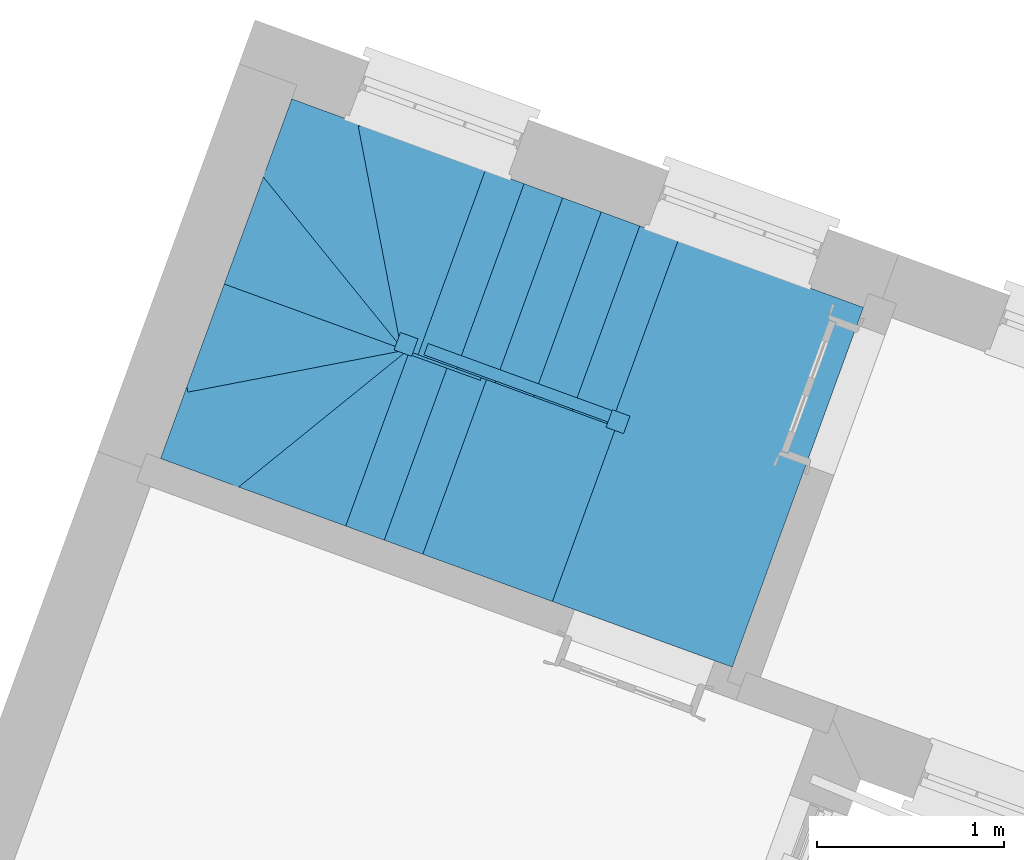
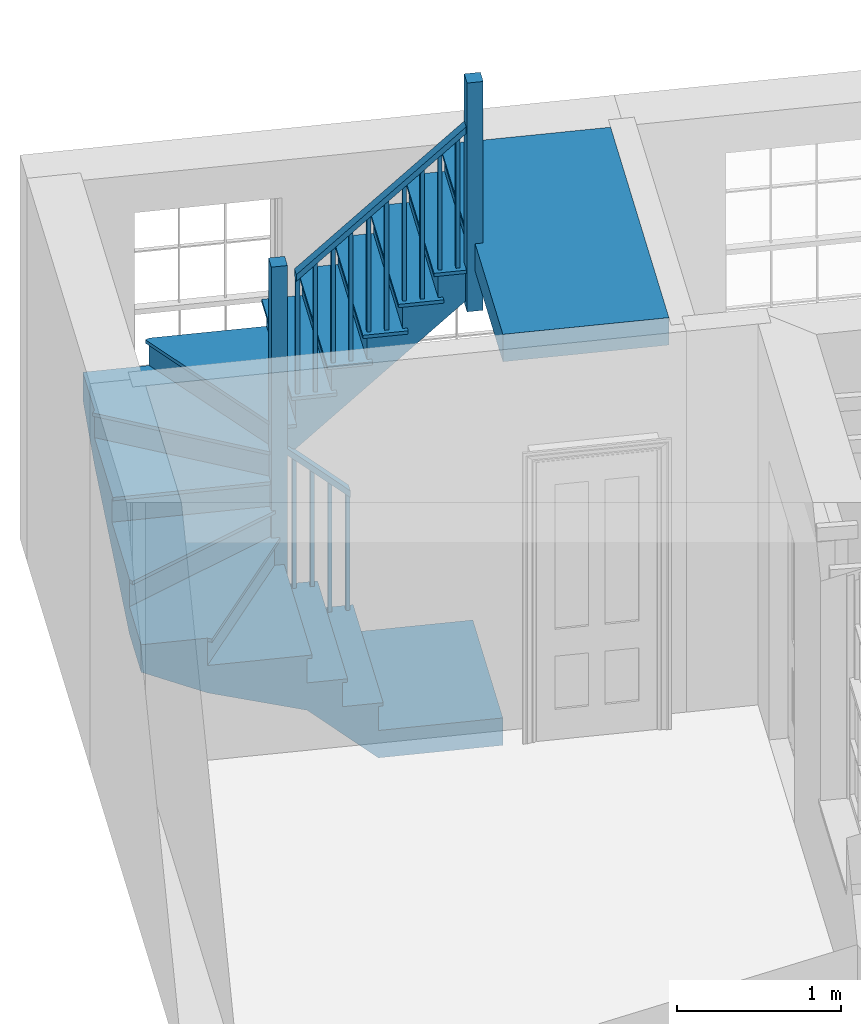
# One storey, part 7 of 7: 1 stair.
"""IFC4 building model written with IfcOpenShell, lengths in metres."""

import ifcopenshell
import ifcopenshell.guid

model = None  # the IFC model being written
_history = None  # IfcOwnerHistory: only IFC2X3 demands one
_inside = {}  # id of a spatial element -> (the spatial element, [elements in it])
_under = {}  # id of a project, library or spatial element -> (it, [spatial elements below it])
_declared = {}  # id of a project -> (the project, [libraries it declares])
_typed = {}  # id of a type object -> (the type object, [elements of that type])
_made_of = {}  # id of a material, layer set ... -> (it, [elements and type objects made of it])


def new_model(schema):
    """Start an empty IFC model of exactly this schema.

    Asked for "IFC4X3", IfcOpenShell would pick the latest addendum, in which some entities
    have other attributes; the version numbers below select the first issue.
    IFC2X3 requires an IfcOwnerHistory on every rooted entity: one is made here for all.
    """
    global model, _history
    if schema == "IFC4X3":
        model = ifcopenshell.file(schema_version=(4, 3, 0, 0))
    else:
        model = ifcopenshell.file(schema=schema)
    _inside.clear()
    _under.clear()
    _declared.clear()
    _typed.clear()
    _made_of.clear()
    _history = None
    if model.schema == "IFC2X3":
        org = make("IfcOrganization", Name="unknown")
        user = make(
            "IfcPersonAndOrganization",
            ThePerson=make("IfcPerson", FamilyName="unknown"),
            TheOrganization=org,
        )
        app = make(
            "IfcApplication",
            ApplicationDeveloper=org,
            Version="unknown",
            ApplicationFullName="unknown",
            ApplicationIdentifier="unknown",
        )
        _history = make(
            "IfcOwnerHistory",
            OwningUser=user,
            OwningApplication=app,
            ChangeAction="ADDED",
            CreationDate=0,
        )
    return model


def make(cls, **values):
    """One entity of the class cls with the attributes given. An attribute that is None is left unset."""
    return model.create_entity(
        cls, **{name: value for name, value in values.items() if value is not None}
    )


def rooted(cls, **values):
    """An entity with a GlobalId (a new one), such as an element, a storey or a relation."""
    return make(cls, GlobalId=ifcopenshell.guid.new(), OwnerHistory=_history, **values)


def si_unit(unit_type, name, prefix=None):
    """IfcSIUnit, for example si_unit("LENGTHUNIT", "METRE", prefix="MILLI")."""
    return make("IfcSIUnit", UnitType=unit_type, Prefix=prefix, Name=name)


def assignment(units):
    """IfcUnitAssignment: the units of a project."""
    return None if units is None else make("IfcUnitAssignment", Units=units)


def point(xyz):
    """IfcCartesianPoint."""
    return None if xyz is None else make("IfcCartesianPoint", Coordinates=xyz)


def direction(xyz):
    """IfcDirection."""
    return None if xyz is None else make("IfcDirection", DirectionRatios=xyz)


def frame(location, z_axis=None, x_axis=None):
    """IfcAxis2Placement3D, a coordinate frame: its origin and axes. An axis left out is left unset."""
    return make(
        "IfcAxis2Placement3D",
        Location=point(location),
        Axis=direction(z_axis),
        RefDirection=direction(x_axis),
    )


def origin():
    """The frame at (0, 0, 0) with its axes left unset."""
    return frame((0.0, 0.0, 0.0))


def origin_with_axes():
    """The frame at (0, 0, 0) with the z axis (0, 0, 1) and the x axis (1, 0, 0) written out."""
    return frame((0.0, 0.0, 0.0), z_axis=(0.0, 0.0, 1.0), x_axis=(1.0, 0.0, 0.0))


def place(relative_to, where):
    """IfcLocalPlacement: puts the frame where relative to a parent placement (None: the world)."""
    return make(
        "IfcLocalPlacement", PlacementRelTo=relative_to, RelativePlacement=where
    )


def context(
    kind, dimensions, precision=None, world=None, true_north=None, identifier=None
):
    """IfcGeometricRepresentationContext, for example the 3D "Model" context."""
    return make(
        "IfcGeometricRepresentationContext",
        ContextIdentifier=identifier,
        ContextType=kind,
        CoordinateSpaceDimension=dimensions,
        Precision=precision,
        WorldCoordinateSystem=world,
        TrueNorth=true_north,
    )


def subcontext(parent, identifier, kind, view, scale=None):
    """IfcGeometricRepresentationSubContext, for example "Body" below "Model"."""
    return make(
        "IfcGeometricRepresentationSubContext",
        ContextIdentifier=identifier,
        ContextType=kind,
        ParentContext=parent,
        TargetScale=scale,
        TargetView=view,
    )


def project(units=None, contexts=None):
    """IfcProject with its units and contexts."""
    return rooted(
        "IfcProject",
        Name="project",
        RepresentationContexts=contexts,
        UnitsInContext=assignment(units),
    )


def spatial(cls, under=None, at=None, **own):
    """A site, building, storey or space (cls), placed at a placement, below another one or the project."""
    s = rooted(cls, ObjectPlacement=at, **own)
    if under is not None:
        _under.setdefault(under.id(), (under, []))[1].append(s)
    return s


def faces_of(points, faces, orient=None, outer=None):
    """IfcFace entities. A face is a list of loops; a loop is a list of indices into points, from 0.

    orient and outer hold one flag for each loop. By default every Orientation is true, the
    first loop of a face is its IfcFaceOuterBound and the others are IfcFaceBound.
    """
    made = []
    for i, loops in enumerate(faces):
        bounds = []
        for j, loop in enumerate(loops):
            is_outer = j == 0 if outer is None else outer[i][j]
            bounds.append(
                make(
                    "IfcFaceOuterBound" if is_outer else "IfcFaceBound",
                    Bound=make("IfcPolyLoop", Polygon=[points[k] for k in loop]),
                    Orientation=True if orient is None else orient[i][j],
                )
            )
        made.append(make("IfcFace", Bounds=bounds))
    return made


def faceted_brep(points, faces, orient=None, outer=None, voids=None):
    """IfcFacetedBrep: a solid bounded by flat faces; with voids (closed shells), ...WithVoids."""
    shared = [point(p) for p in points]
    hull = make("IfcClosedShell", CfsFaces=faces_of(shared, faces, orient, outer))
    if voids is None:
        return make("IfcFacetedBrep", Outer=hull)
    return make(
        "IfcFacetedBrepWithVoids",
        Outer=hull,
        Voids=[
            make(cls, CfsFaces=faces_of(shared, fs, o, b)) for cls, fs, o, b in voids
        ],
    )


def shape(context_of_items, identifier, shape_type, items):
    """IfcShapeRepresentation: the items that make up one representation, for example the "Body"."""
    return make(
        "IfcShapeRepresentation",
        ContextOfItems=context_of_items,
        RepresentationIdentifier=identifier,
        RepresentationType=shape_type,
        Items=items,
    )


def made_of(thing, what):
    """Note that an element or type object is made of a material, layer set ...; save() writes the relation."""
    if what is not None:
        _made_of.setdefault(what.id(), (what, []))[1].append(thing)
    return thing


def element(
    cls,
    number,
    at=None,
    inside=None,
    cuts=None,
    type_object=None,
    material=None,
    context=None,
    identifier="Body",
    shape_type=None,
    held_by="IfcProductDefinitionShape",
    body=None,
    shapes=None,
    **own,
):
    """One element of the class cls, such as IfcWall. Its Tag is "e" and its number.

    at: its placement. inside: the storey or other place that contains it. cuts: it is an
    opening in that element (IfcRelVoidsElement). A single representation is given by context,
    identifier, shape_type and body (its items); several are given by shapes. held_by: the class
    of the entity that holds the representations. save() writes the other relations.
    """
    e = rooted(cls, Tag="e%d" % number, ObjectPlacement=at, **own)
    if body is not None:
        shapes = [shape(context, identifier, shape_type, body)]
    if shapes is not None:
        e.Representation = make(held_by, Representations=shapes)
    if inside is not None:
        _inside.setdefault(inside.id(), (inside, []))[1].append(e)
    if cuts is not None:
        rooted(
            "IfcRelVoidsElement", RelatingBuildingElement=cuts, RelatedOpeningElement=e
        )
    if type_object is not None:
        _typed.setdefault(type_object.id(), (type_object, []))[1].append(e)
    return made_of(e, material)


def aggregate(whole, parts):
    """IfcRelAggregates: a whole, such as a stair, and the parts it consists of."""
    return rooted("IfcRelAggregates", RelatingObject=whole, RelatedObjects=parts)


def save(model, path):
    """Write the relations noted so far, then the file.

    IfcRelAggregates (storeys below a building ...), IfcRelContainedInSpatialStructure (elements
    in a storey), IfcRelDefinesByType, IfcRelAssociatesMaterial and IfcRelDeclares: one each for
    every whole, place, type object, material and project.
    """
    for whole, parts in _under.values():
        aggregate(whole, parts)
    for where, things in _inside.values():
        rooted(
            "IfcRelContainedInSpatialStructure",
            RelatedElements=things,
            RelatingStructure=where,
        )
    for kind, things in _typed.values():
        rooted("IfcRelDefinesByType", RelatedObjects=things, RelatingType=kind)
    for what, things in _made_of.values():
        rooted("IfcRelAssociatesMaterial", RelatedObjects=things, RelatingMaterial=what)
    for by, libraries in _declared.values():
        rooted("IfcRelDeclares", RelatingContext=by, RelatedDefinitions=libraries)
    model.write(path)


model = new_model("IFC4")

# Units and contexts
model_context = context("Model", 3, world=origin_with_axes())
body_context = subcontext(model_context, "Body", "Model", "MODEL_VIEW")
ifc_project = project(units=[si_unit("PLANEANGLEUNIT", "RADIAN"), si_unit("MASSUNIT", "GRAM", prefix="KILO"), si_unit("FORCEUNIT", "NEWTON", prefix="KILO"), si_unit("LENGTHUNIT", "METRE"), si_unit("AREAUNIT", "SQUARE_METRE"), si_unit("VOLUMEUNIT", "CUBIC_METRE")], contexts=[model_context, model_context])

# Sites, building, storey
site_1_placement = place(None, origin_with_axes())
site_1 = spatial("IfcSite", under=ifc_project, at=site_1_placement, Name="Tamar")
site_2_placement = place(site_1_placement, origin_with_axes())
site_2 = spatial("IfcSite", under=site_1, at=site_2_placement, Name="Site plot-13", CompositionType="ELEMENT")
building_placement = place(None, origin_with_axes())
building = spatial("IfcBuilding", under=site_2, at=building_placement, Name="Building plot-13", CompositionType="ELEMENT")
storey_placement = place(None, frame((0.0, 0.0, 29.0), z_axis=(0.0, 0.0, 1.0), x_axis=(1.0, 0.0, 0.0)))
storey = spatial("IfcBuildingStorey", under=building, at=storey_placement, Name="plot-13 1", CompositionType="ELEMENT", Elevation=29.0)

# Stair
stair_placement = place(None, origin())
element("IfcStair", 1, at=stair_placement, inside=storey, Name="Stair", PredefinedType="NOTDEFINED", context=body_context, shape_type="Brep", body=[
    faceted_brep([(245.088696, 302.339506, 31.646429), (245.4404, 303.303523, 31.646429), (245.233725, 303.378924, 31.646429), (244.882021, 302.414907, 31.646429), (244.882021, 302.414907, 31.239286), (245.233725, 303.378924, 31.239286), (245.4404, 303.303523, 31.442857), (245.088696, 302.339506, 31.442857)], [[[0, 1, 2, 3]], [[4, 5, 6, 7]], [[7, 6, 1, 0]], [[1, 6, 5, 2]], [[5, 4, 3, 2]], [[3, 4, 7, 0]]]),
    faceted_brep([(245.233725, 303.378924, 31.621429), (245.205542, 303.389206, 31.621429), (245.233725, 303.378924, 31.646429), (245.468583, 303.293241, 31.621429), (245.4404, 303.303523, 31.621429), (245.4404, 303.303523, 31.646429), (245.205542, 303.389206, 31.646429), (245.468583, 303.293241, 31.646429), (244.843556, 302.397006, 31.646429), (244.882021, 302.414907, 31.646429), (244.882021, 302.414907, 31.621429), (244.843556, 302.397006, 31.621429), (245.106597, 302.301041, 31.646429), (245.088696, 302.339506, 31.646429), (245.088696, 302.339506, 31.621429), (245.106597, 302.301041, 31.621429)], [[[0, 1, 2]], [[3, 4, 5]], [[1, 6, 2]], [[7, 3, 5]], [[2, 6, 8, 9]], [[0, 2, 9, 10]], [[1, 0, 10, 11]], [[6, 1, 11, 8]], [[9, 8, 12, 13]], [[10, 9, 13, 14]], [[11, 10, 14, 15]], [[8, 11, 15, 12]], [[13, 12, 7, 5]], [[14, 13, 5, 4]], [[15, 14, 4, 3]], [[12, 15, 3, 7]]]),
    faceted_brep([(244.882021, 302.414907, 32.546429), (244.905507, 302.406339, 32.546429), (244.914075, 302.429825, 32.546429), (244.890589, 302.438393, 32.546429), (244.890589, 302.438393, 31.646429), (244.914075, 302.429825, 31.646429), (244.905507, 302.406339, 31.646429), (244.882021, 302.414907, 31.646429)], [[[0, 1, 2, 3]], [[4, 5, 6, 7]], [[7, 6, 1, 0]], [[6, 5, 2, 1]], [[5, 4, 3, 2]], [[4, 7, 0, 3]]]),
    faceted_brep([(244.985359, 302.377207, 32.648214), (245.008844, 302.368638, 32.648214), (245.017413, 302.392124, 32.648214), (244.993927, 302.400692, 32.648214), (244.993927, 302.400692, 31.646429), (245.017413, 302.392124, 31.646429), (245.008844, 302.368638, 31.646429), (244.985359, 302.377207, 31.646429)], [[[0, 1, 2, 3]], [[4, 5, 6, 7]], [[7, 6, 1, 0]], [[6, 5, 2, 1]], [[5, 4, 3, 2]], [[4, 7, 0, 3]]]),
    faceted_brep([(244.897444, 302.457182, 32.496429), (244.875166, 302.396119, 32.496429), (244.875166, 302.396119, 32.546429), (244.897444, 302.457182, 32.546429), (245.081841, 302.320717, 32.7), (245.104119, 302.38178, 32.7), (245.104119, 302.38178, 32.75), (245.081841, 302.320717, 32.75)], [[[0, 1, 2, 3]], [[4, 5, 6, 7]], [[0, 5, 4, 1]], [[3, 2, 7, 6]], [[0, 3, 6, 5]], [[2, 1, 4, 7]]]),
    faceted_brep([(244.882021, 302.414907, 31.442857), (245.233725, 303.378924, 31.442857), (245.02705, 303.454326, 31.442857), (244.675346, 302.490309, 31.442857), (244.675346, 302.490309, 31.035714), (245.02705, 303.454326, 31.035714), (245.233725, 303.378924, 31.239286), (244.882021, 302.414907, 31.239286)], [[[0, 1, 2, 3]], [[4, 5, 6, 7]], [[7, 6, 1, 0]], [[1, 6, 5, 2]], [[5, 4, 3, 2]], [[3, 4, 7, 0]]]),
    faceted_brep([(245.02705, 303.454326, 31.417857), (244.998867, 303.464608, 31.417857), (245.02705, 303.454326, 31.442857), (245.261908, 303.368642, 31.417857), (245.233725, 303.378924, 31.417857), (245.233725, 303.378924, 31.442857), (244.998867, 303.464608, 31.442857), (245.261908, 303.368642, 31.442857), (244.636881, 302.472408, 31.442857), (244.675346, 302.490309, 31.442857), (244.675346, 302.490309, 31.417857), (244.636881, 302.472408, 31.417857), (244.899922, 302.376442, 31.442857), (244.882021, 302.414907, 31.442857), (244.882021, 302.414907, 31.417857), (244.899922, 302.376442, 31.417857)], [[[0, 1, 2]], [[3, 4, 5]], [[1, 6, 2]], [[7, 3, 5]], [[2, 6, 8, 9]], [[0, 2, 9, 10]], [[1, 0, 10, 11]], [[6, 1, 11, 8]], [[9, 8, 12, 13]], [[10, 9, 13, 14]], [[11, 10, 14, 15]], [[8, 11, 15, 12]], [[13, 12, 7, 5]], [[14, 13, 5, 4]], [[15, 14, 4, 3]], [[12, 15, 3, 7]]]),
    faceted_brep([(244.675346, 302.490309, 32.342857), (244.698832, 302.481741, 32.342857), (244.7074, 302.505226, 32.342857), (244.683914, 302.513795, 32.342857), (244.683914, 302.513795, 31.442857), (244.7074, 302.505226, 31.442857), (244.698832, 302.481741, 31.442857), (244.675346, 302.490309, 31.442857)], [[[0, 1, 2, 3]], [[4, 5, 6, 7]], [[7, 6, 1, 0]], [[6, 5, 2, 1]], [[5, 4, 3, 2]], [[4, 7, 0, 3]]]),
    faceted_brep([(244.778683, 302.452608, 32.444643), (244.802169, 302.44404, 32.444643), (244.810738, 302.467526, 32.444643), (244.787252, 302.476094, 32.444643), (244.787252, 302.476094, 31.442857), (244.810738, 302.467526, 31.442857), (244.802169, 302.44404, 31.442857), (244.778683, 302.452608, 31.442857)], [[[0, 1, 2, 3]], [[4, 5, 6, 7]], [[7, 6, 1, 0]], [[6, 5, 2, 1]], [[5, 4, 3, 2]], [[4, 7, 0, 3]]]),
    faceted_brep([(244.690769, 302.532583, 32.292857), (244.668491, 302.47152, 32.292857), (244.668491, 302.47152, 32.342857), (244.690769, 302.532583, 32.342857), (244.875166, 302.396119, 32.496429), (244.897444, 302.457182, 32.496429), (244.897444, 302.457182, 32.546429), (244.875166, 302.396119, 32.546429)], [[[0, 1, 2, 3]], [[4, 5, 6, 7]], [[0, 5, 4, 1]], [[3, 2, 7, 6]], [[0, 3, 6, 5]], [[2, 1, 4, 7]]]),
    faceted_brep([(244.675346, 302.490309, 31.239286), (245.02705, 303.454326, 31.239286), (244.820375, 303.529727, 31.239286), (244.468671, 302.565711, 31.239286), (244.468671, 302.565711, 30.832143), (244.820375, 303.529727, 30.832143), (245.02705, 303.454326, 31.035714), (244.675346, 302.490309, 31.035714)], [[[0, 1, 2, 3]], [[4, 5, 6, 7]], [[7, 6, 1, 0]], [[1, 6, 5, 2]], [[5, 4, 3, 2]], [[3, 4, 7, 0]]]),
    faceted_brep([(244.792192, 303.540009, 31.214286), (244.792192, 303.540009, 31.239286), (244.820375, 303.529727, 31.214286), (245.055233, 303.444044, 31.239286), (245.055233, 303.444044, 31.214286), (245.02705, 303.454326, 31.214286), (244.820375, 303.529727, 31.239286), (245.02705, 303.454326, 31.239286), (244.430206, 302.54781, 31.239286), (244.468671, 302.565711, 31.239286), (244.468671, 302.565711, 31.214286), (244.430206, 302.54781, 31.214286), (244.693247, 302.451844, 31.239286), (244.675346, 302.490309, 31.239286), (244.675346, 302.490309, 31.214286), (244.693247, 302.451844, 31.214286)], [[[0, 1, 2]], [[3, 4, 5]], [[2, 1, 6]], [[3, 5, 7]], [[6, 1, 8, 9]], [[2, 6, 9, 10]], [[0, 2, 10, 11]], [[1, 0, 11, 8]], [[9, 8, 12, 13]], [[10, 9, 13, 14]], [[11, 10, 14, 15]], [[8, 11, 15, 12]], [[13, 12, 3, 7]], [[14, 13, 7, 5]], [[15, 14, 5, 4]], [[12, 15, 4, 3]]]),
    faceted_brep([(244.468671, 302.565711, 32.139286), (244.492157, 302.557142, 32.139286), (244.500725, 302.580628, 32.139286), (244.477239, 302.589196, 32.139286), (244.477239, 302.589196, 31.239286), (244.500725, 302.580628, 31.239286), (244.492157, 302.557142, 31.239286), (244.468671, 302.565711, 31.239286)], [[[0, 1, 2, 3]], [[4, 5, 6, 7]], [[7, 6, 1, 0]], [[6, 5, 2, 1]], [[5, 4, 3, 2]], [[4, 7, 0, 3]]]),
    faceted_brep([(244.572008, 302.52801, 32.241071), (244.595494, 302.519441, 32.241071), (244.604062, 302.542927, 32.241071), (244.580577, 302.551496, 32.241071), (244.580577, 302.551496, 31.239286), (244.604062, 302.542927, 31.239286), (244.595494, 302.519441, 31.239286), (244.572008, 302.52801, 31.239286)], [[[0, 1, 2, 3]], [[4, 5, 6, 7]], [[7, 6, 1, 0]], [[6, 5, 2, 1]], [[5, 4, 3, 2]], [[4, 7, 0, 3]]]),
    faceted_brep([(244.484094, 302.607985, 32.089286), (244.461816, 302.546922, 32.089286), (244.461816, 302.546922, 32.139286), (244.484094, 302.607985, 32.139286), (244.668491, 302.47152, 32.292857), (244.690769, 302.532583, 32.292857), (244.690769, 302.532583, 32.342857), (244.668491, 302.47152, 32.342857)], [[[0, 1, 2, 3]], [[4, 5, 6, 7]], [[0, 5, 4, 1]], [[3, 2, 7, 6]], [[0, 3, 6, 5]], [[2, 1, 4, 7]]]),
    faceted_brep([(244.468671, 302.565711, 31.035714), (244.820375, 303.529727, 31.035714), (244.613699, 303.605129, 31.035714), (244.261996, 302.641112, 31.035714), (244.261996, 302.641112, 30.628571), (244.613699, 303.605129, 30.628571), (244.820375, 303.529727, 30.832143), (244.468671, 302.565711, 30.832143)], [[[0, 1, 2, 3]], [[4, 5, 6, 7]], [[7, 6, 1, 0]], [[1, 6, 5, 2]], [[5, 4, 3, 2]], [[3, 4, 7, 0]]]),
    faceted_brep([(244.613699, 303.605129, 31.010714), (244.585516, 303.615411, 31.010714), (244.613699, 303.605129, 31.035714), (244.848557, 303.519445, 31.010714), (244.820375, 303.529727, 31.010714), (244.820375, 303.529727, 31.035714), (244.585516, 303.615411, 31.035714), (244.848557, 303.519445, 31.035714), (244.223531, 302.623211, 31.035714), (244.261996, 302.641112, 31.035714), (244.261996, 302.641112, 31.010714), (244.223531, 302.623211, 31.010714), (244.486572, 302.527246, 31.035714), (244.468671, 302.565711, 31.035714), (244.468671, 302.565711, 31.010714), (244.486572, 302.527246, 31.010714)], [[[0, 1, 2]], [[3, 4, 5]], [[1, 6, 2]], [[7, 3, 5]], [[2, 6, 8, 9]], [[0, 2, 9, 10]], [[1, 0, 10, 11]], [[6, 1, 11, 8]], [[9, 8, 12, 13]], [[10, 9, 13, 14]], [[11, 10, 14, 15]], [[8, 11, 15, 12]], [[13, 12, 7, 5]], [[14, 13, 5, 4]], [[15, 14, 4, 3]], [[12, 15, 3, 7]]]),
    faceted_brep([(244.261996, 302.641112, 31.935714), (244.285481, 302.632544, 31.935714), (244.29405, 302.65603, 31.935714), (244.270564, 302.664598, 31.935714), (244.270564, 302.664598, 31.035714), (244.29405, 302.65603, 31.035714), (244.285481, 302.632544, 31.035714), (244.261996, 302.641112, 31.035714)], [[[0, 1, 2, 3]], [[4, 5, 6, 7]], [[7, 6, 1, 0]], [[6, 5, 2, 1]], [[5, 4, 3, 2]], [[4, 7, 0, 3]]]),
    faceted_brep([(244.365333, 302.603411, 32.0375), (244.388819, 302.594843, 32.0375), (244.397387, 302.618329, 32.0375), (244.373902, 302.626897, 32.0375), (244.373902, 302.626897, 31.035714), (244.397387, 302.618329, 31.035714), (244.388819, 302.594843, 31.035714), (244.365333, 302.603411, 31.035714)], [[[0, 1, 2, 3]], [[4, 5, 6, 7]], [[7, 6, 1, 0]], [[6, 5, 2, 1]], [[5, 4, 3, 2]], [[4, 7, 0, 3]]]),
    faceted_brep([(244.277419, 302.683387, 31.885714), (244.255141, 302.622324, 31.885714), (244.255141, 302.622324, 31.935714), (244.277419, 302.683387, 31.935714), (244.461816, 302.546922, 32.089286), (244.484094, 302.607985, 32.089286), (244.484094, 302.607985, 32.139286), (244.461816, 302.546922, 32.139286)], [[[0, 1, 2, 3]], [[4, 5, 6, 7]], [[0, 5, 4, 1]], [[3, 2, 7, 6]], [[0, 3, 6, 5]], [[2, 1, 4, 7]]]),
    faceted_brep([(244.261996, 302.641112, 30.832143), (244.613699, 303.605129, 30.832143), (244.407024, 303.680531, 30.832143), (244.055321, 302.716514, 30.832143), (244.055321, 302.716514, 30.425), (244.407024, 303.680531, 30.425), (244.613699, 303.605129, 30.628571), (244.261996, 302.641112, 30.628571)], [[[0, 1, 2, 3]], [[4, 5, 6, 7]], [[7, 6, 1, 0]], [[1, 6, 5, 2]], [[5, 4, 3, 2]], [[3, 4, 7, 0]]]),
    faceted_brep([(244.378841, 303.690813, 30.807143), (244.378841, 303.690813, 30.832143), (244.407024, 303.680531, 30.807143), (244.641882, 303.594847, 30.832143), (244.641882, 303.594847, 30.807143), (244.613699, 303.605129, 30.807143), (244.407024, 303.680531, 30.832143), (244.613699, 303.605129, 30.832143), (244.016856, 302.698613, 30.832143), (244.055321, 302.716514, 30.832143), (244.055321, 302.716514, 30.807143), (244.016856, 302.698613, 30.807143), (244.279897, 302.602647, 30.832143), (244.261996, 302.641112, 30.832143), (244.261996, 302.641112, 30.807143), (244.279897, 302.602647, 30.807143)], [[[0, 1, 2]], [[3, 4, 5]], [[2, 1, 6]], [[3, 5, 7]], [[6, 1, 8, 9]], [[2, 6, 9, 10]], [[0, 2, 10, 11]], [[1, 0, 11, 8]], [[9, 8, 12, 13]], [[10, 9, 13, 14]], [[11, 10, 14, 15]], [[8, 11, 15, 12]], [[13, 12, 3, 7]], [[14, 13, 7, 5]], [[15, 14, 5, 4]], [[12, 15, 4, 3]]]),
    faceted_brep([(244.055321, 302.716514, 31.732143), (244.078806, 302.707945, 31.732143), (244.087375, 302.731431, 31.732143), (244.063889, 302.74, 31.732143), (244.063889, 302.74, 30.832143), (244.087375, 302.731431, 30.832143), (244.078806, 302.707945, 30.832143), (244.055321, 302.716514, 30.832143)], [[[0, 1, 2, 3]], [[4, 5, 6, 7]], [[7, 6, 1, 0]], [[6, 5, 2, 1]], [[5, 4, 3, 2]], [[4, 7, 0, 3]]]),
    faceted_brep([(244.158658, 302.678813, 31.833929), (244.182144, 302.670245, 31.833929), (244.190712, 302.69373, 31.833929), (244.167226, 302.702299, 31.833929), (244.167226, 302.702299, 30.832143), (244.190712, 302.69373, 30.832143), (244.182144, 302.670245, 30.832143), (244.158658, 302.678813, 30.832143)], [[[0, 1, 2, 3]], [[4, 5, 6, 7]], [[7, 6, 1, 0]], [[6, 5, 2, 1]], [[5, 4, 3, 2]], [[4, 7, 0, 3]]]),
    faceted_brep([(244.070744, 302.758788, 31.682143), (244.048466, 302.697725, 31.682143), (244.048466, 302.697725, 31.732143), (244.070744, 302.758788, 31.732143), (244.255141, 302.622324, 31.885714), (244.277419, 302.683387, 31.885714), (244.277419, 302.683387, 31.935714), (244.255141, 302.622324, 31.935714)], [[[0, 1, 2, 3]], [[4, 5, 6, 7]], [[0, 5, 4, 1]], [[3, 2, 7, 6]], [[0, 3, 6, 5]], [[2, 1, 4, 7]]]),
    faceted_brep([(244.055321, 302.716514, 30.628571), (244.407024, 303.680531, 30.628571), (244.30408, 303.718088, 30.628571), (243.952376, 302.754071, 30.628571), (243.952376, 302.754071, 30.425), (244.30408, 303.718088, 30.425), (244.407024, 303.680531, 30.425), (244.055321, 302.716514, 30.425)], [[[0, 1, 2, 3]], [[4, 5, 6, 7]], [[7, 6, 1, 0]], [[6, 5, 2, 1]], [[5, 4, 3, 2]], [[4, 7, 0, 3]]]),
    faceted_brep([(243.942094, 302.725888, 30.603571), (243.942094, 302.725888, 30.628571), (243.952376, 302.754071, 30.603571), (244.045039, 302.688331, 30.628571), (244.045039, 302.688331, 30.603571), (244.055321, 302.716514, 30.603571), (243.952376, 302.754071, 30.628571), (244.055321, 302.716514, 30.628571)], [[[0, 1, 2]], [[3, 4, 5]], [[2, 1, 6]], [[3, 5, 7]], [[6, 1, 3, 7]], [[2, 6, 7, 5]], [[0, 2, 5, 4]], [[1, 0, 4, 3]]]),
    faceted_brep([(243.888268, 302.724236, 31.828571), (243.982211, 302.689963, 31.828571), (244.016484, 302.783906, 31.828571), (243.922541, 302.81818, 31.828571), (243.922541, 302.81818, 30.628571), (244.016484, 302.783906, 30.628571), (243.982211, 302.689963, 30.628571), (243.888268, 302.724236, 30.628571)], [[[0, 1, 2, 3]], [[4, 5, 6, 7]], [[7, 6, 1, 0]], [[6, 5, 2, 1]], [[5, 4, 3, 2]], [[4, 7, 0, 3]]]),
    faceted_brep([(244.30408, 303.718088, 30.628571), (243.72567, 303.92911, 30.628571), (243.952376, 302.754071, 30.628571), (243.952376, 302.754071, 30.221429), (243.72567, 303.92911, 30.221429), (244.30408, 303.718088, 30.425)], [[[0, 1, 2]], [[3, 4, 5]], [[0, 5, 4, 1]], [[4, 3, 2, 1]], [[2, 3, 5, 0]]]),
    faceted_brep([(243.696213, 303.923427, 30.603571), (243.696213, 303.923427, 30.628571), (243.72567, 303.92911, 30.603571), (243.922919, 302.748388, 30.628571), (243.922919, 302.748388, 30.603571), (243.952376, 302.754071, 30.603571), (243.72567, 303.92911, 30.628571), (243.952376, 302.754071, 30.628571)], [[[0, 1, 2]], [[3, 4, 5]], [[2, 1, 6]], [[3, 5, 7]], [[6, 1, 3, 7]], [[2, 6, 7, 5]], [[0, 2, 5, 4]], [[1, 0, 4, 3]]]),
    faceted_brep([(243.72567, 303.92911, 30.425), (243.340063, 304.069792, 30.425), (243.199381, 303.684185, 30.425), (243.952376, 302.754071, 30.425), (243.952376, 302.754071, 30.017857), (243.199381, 303.684185, 30.017857), (243.340063, 304.069792, 30.221429), (243.72567, 303.92911, 30.221429)], [[[0, 1, 2, 3]], [[4, 5, 6, 7]], [[7, 6, 1, 0]], [[1, 6, 5, 2]], [[5, 4, 3, 2]], [[3, 4, 7, 0]]]),
    faceted_brep([(243.176065, 303.665308, 30.4), (243.176065, 303.665308, 30.425), (243.199381, 303.684185, 30.4), (243.929059, 302.735195, 30.425), (243.929059, 302.735195, 30.4), (243.952376, 302.754071, 30.4), (243.199381, 303.684185, 30.425), (243.952376, 302.754071, 30.425)], [[[0, 1, 2]], [[3, 4, 5]], [[2, 1, 6]], [[3, 5, 7]], [[6, 1, 3, 7]], [[2, 6, 7, 5]], [[0, 2, 5, 4]], [[1, 0, 4, 3]]]),
    faceted_brep([(243.199381, 303.684185, 30.221429), (242.988359, 303.105775, 30.221429), (243.952376, 302.754071, 30.221429), (243.952376, 302.754071, 29.814286), (242.988359, 303.105775, 29.814286), (243.199381, 303.684185, 30.017857)], [[[0, 1, 2]], [[3, 4, 5]], [[0, 5, 4, 1]], [[4, 3, 2, 1]], [[2, 3, 5, 0]]]),
    faceted_brep([(242.978077, 303.077592, 30.196429), (242.978077, 303.077592, 30.221429), (242.988359, 303.105775, 30.196429), (243.942094, 302.725888, 30.221429), (243.942094, 302.725888, 30.196429), (243.952376, 302.754071, 30.196429), (242.988359, 303.105775, 30.221429), (243.952376, 302.754071, 30.221429)], [[[0, 1, 2]], [[3, 4, 5]], [[2, 1, 6]], [[3, 5, 7]], [[6, 1, 3, 7]], [[2, 6, 7, 5]], [[0, 2, 5, 4]], [[1, 0, 4, 3]]]),
    faceted_brep([(243.888268, 302.724236, 30.628571), (243.982211, 302.689963, 30.628571), (244.016484, 302.783906, 30.628571), (243.922541, 302.81818, 30.628571), (243.922541, 302.81818, 29.721429), (244.016484, 302.783906, 29.721429), (243.982211, 302.689963, 29.721429), (243.888268, 302.724236, 29.721429)], [[[0, 1, 2, 3]], [[4, 5, 6, 7]], [[7, 6, 1, 0]], [[6, 5, 2, 1]], [[5, 4, 3, 2]], [[4, 7, 0, 3]]]),
    faceted_brep([(243.952376, 302.754071, 29.814286), (242.988359, 303.105775, 29.814286), (242.988359, 303.105775, 30.017857), (243.952376, 302.754071, 30.017857)], [[[0, 1, 2, 3]], [[1, 0, 3, 2]]]),
    faceted_brep([(243.925543, 302.767488, 29.992857), (243.925543, 302.767488, 30.017857), (243.952376, 302.754071, 29.992857), (243.952376, 302.754071, 30.017857)], [[[0, 1, 2]], [[1, 0, 2]], [[2, 1, 3]], [[1, 2, 3]]]),
    faceted_brep([(243.982211, 302.689963, 31.217857), (244.016484, 302.783906, 31.217857), (243.922541, 302.81818, 31.217857), (243.888268, 302.724236, 31.217857), (243.888268, 302.724236, 30.017857), (243.922541, 302.81818, 30.017857), (244.016484, 302.783906, 30.017857), (243.982211, 302.689963, 30.017857)], [[[0, 1, 2, 3]], [[4, 5, 6, 7]], [[7, 6, 1, 0]], [[6, 5, 2, 1]], [[5, 4, 3, 2]], [[4, 7, 0, 3]]]),
    faceted_brep([(242.988359, 303.105775, 30.017857), (242.777337, 302.527365, 30.017857), (243.952376, 302.754071, 30.017857), (243.952376, 302.754071, 29.610714), (242.777337, 302.527365, 29.610714), (242.988359, 303.105775, 29.814286)], [[[0, 1, 2]], [[3, 4, 5]], [[0, 5, 4, 1]], [[4, 3, 2, 1]], [[2, 3, 5, 0]]]),
    faceted_brep([(242.78302, 302.497908, 29.992857), (242.78302, 302.497908, 30.017857), (242.777337, 302.527365, 29.992857), (243.958059, 302.724614, 30.017857), (243.958059, 302.724614, 29.992857), (243.952376, 302.754071, 29.992857), (242.777337, 302.527365, 30.017857), (243.952376, 302.754071, 30.017857)], [[[0, 1, 2]], [[3, 4, 5]], [[2, 1, 6]], [[3, 5, 7]], [[6, 1, 3, 7]], [[2, 6, 7, 5]], [[0, 2, 5, 4]], [[1, 0, 4, 3]]]),
    faceted_brep([(242.777337, 302.527365, 29.814286), (242.636655, 302.141758, 29.814286), (243.022262, 302.001077, 29.814286), (243.952376, 302.754071, 29.814286), (243.952376, 302.754071, 29.407143), (243.022262, 302.001077, 29.407143), (242.636655, 302.141758, 29.610714), (242.777337, 302.527365, 29.610714)], [[[0, 1, 2, 3]], [[4, 5, 6, 7]], [[7, 6, 1, 0]], [[1, 6, 5, 2]], [[5, 4, 3, 2]], [[3, 4, 7, 0]]]),
    faceted_brep([(243.041139, 301.97776, 29.789286), (243.041139, 301.97776, 29.814286), (243.022262, 302.001077, 29.789286), (243.971253, 302.730754, 29.814286), (243.971253, 302.730754, 29.789286), (243.952376, 302.754071, 29.789286), (243.022262, 302.001077, 29.814286), (243.952376, 302.754071, 29.814286)], [[[0, 1, 2]], [[3, 4, 5]], [[2, 1, 6]], [[3, 5, 7]], [[6, 1, 3, 7]], [[2, 6, 7, 5]], [[0, 2, 5, 4]], [[1, 0, 4, 3]]]),
    faceted_brep([(243.022262, 302.001077, 29.610714), (243.600672, 301.790054, 29.610714), (243.952376, 302.754071, 29.610714), (243.952376, 302.754071, 29.203571), (243.600672, 301.790054, 29.203571), (243.022262, 302.001077, 29.407143)], [[[0, 1, 2]], [[3, 4, 5]], [[0, 5, 4, 1]], [[4, 3, 2, 1]], [[2, 3, 5, 0]]]),
    faceted_brep([(243.600672, 301.790054, 29.585714), (243.628855, 301.779772, 29.585714), (243.600672, 301.790054, 29.610714), (243.980559, 302.743789, 29.585714), (243.952376, 302.754071, 29.585714), (243.952376, 302.754071, 29.610714), (243.628855, 301.779772, 29.610714), (243.980559, 302.743789, 29.610714)], [[[0, 1, 2]], [[3, 4, 5]], [[1, 6, 2]], [[7, 3, 5]], [[2, 6, 7, 5]], [[0, 2, 5, 4]], [[1, 0, 4, 3]], [[6, 1, 3, 7]]]),
    faceted_brep([(243.982211, 302.689963, 30.017857), (244.016484, 302.783906, 30.017857), (243.922541, 302.81818, 30.017857), (243.888268, 302.724236, 30.017857), (243.888268, 302.724236, 29.110714), (243.922541, 302.81818, 29.110714), (244.016484, 302.783906, 29.110714), (243.982211, 302.689963, 29.110714)], [[[0, 1, 2, 3]], [[4, 5, 6, 7]], [[7, 6, 1, 0]], [[6, 5, 2, 1]], [[5, 4, 3, 2]], [[4, 7, 0, 3]]]),
    faceted_brep([(243.952376, 302.754071, 29.407143), (243.600672, 301.790054, 29.407143), (243.807347, 301.714653, 29.407143), (244.159051, 302.67867, 29.407143), (244.159051, 302.67867, 29.0), (243.807347, 301.714653, 29.0), (243.600672, 301.790054, 29.203571), (243.952376, 302.754071, 29.203571)], [[[0, 1, 2, 3]], [[4, 5, 6, 7]], [[7, 6, 1, 0]], [[1, 6, 5, 2]], [[5, 4, 3, 2]], [[3, 4, 7, 0]]]),
    faceted_brep([(243.83553, 301.704371, 29.382143), (243.83553, 301.704371, 29.407143), (243.807347, 301.714653, 29.382143), (243.572489, 301.800336, 29.407143), (243.572489, 301.800336, 29.382143), (243.600672, 301.790054, 29.382143), (243.807347, 301.714653, 29.407143), (243.600672, 301.790054, 29.407143), (244.197516, 302.696571, 29.407143), (244.159051, 302.67867, 29.407143), (244.159051, 302.67867, 29.382143), (244.197516, 302.696571, 29.382143), (243.934475, 302.792536, 29.407143), (243.952376, 302.754071, 29.407143), (243.952376, 302.754071, 29.382143), (243.934475, 302.792536, 29.382143)], [[[0, 1, 2]], [[3, 4, 5]], [[2, 1, 6]], [[3, 5, 7]], [[6, 1, 8, 9]], [[2, 6, 9, 10]], [[0, 2, 10, 11]], [[1, 0, 11, 8]], [[9, 8, 12, 13]], [[10, 9, 13, 14]], [[11, 10, 14, 15]], [[8, 11, 15, 12]], [[13, 12, 3, 7]], [[14, 13, 7, 5]], [[15, 14, 5, 4]], [[12, 15, 4, 3]]]),
    faceted_brep([(244.159051, 302.67867, 30.307143), (244.135565, 302.687238, 30.307143), (244.126997, 302.663752, 30.307143), (244.150483, 302.655184, 30.307143), (244.150483, 302.655184, 29.407143), (244.126997, 302.663752, 29.407143), (244.135565, 302.687238, 29.407143), (244.159051, 302.67867, 29.407143)], [[[0, 1, 2, 3]], [[4, 5, 6, 7]], [[7, 6, 1, 0]], [[6, 5, 2, 1]], [[5, 4, 3, 2]], [[4, 7, 0, 3]]]),
    faceted_brep([(244.055714, 302.71637, 30.408929), (244.032228, 302.724939, 30.408929), (244.023659, 302.701453, 30.408929), (244.047145, 302.692885, 30.408929), (244.047145, 302.692885, 29.407143), (244.023659, 302.701453, 29.407143), (244.032228, 302.724939, 29.407143), (244.055714, 302.71637, 29.407143)], [[[0, 1, 2, 3]], [[4, 5, 6, 7]], [[7, 6, 1, 0]], [[6, 5, 2, 1]], [[5, 4, 3, 2]], [[4, 7, 0, 3]]]),
    faceted_brep([(244.143628, 302.636395, 30.257143), (244.165906, 302.697458, 30.257143), (244.165906, 302.697458, 30.307143), (244.143628, 302.636395, 30.307143), (243.959231, 302.77286, 30.460714), (243.936953, 302.711797, 30.460714), (243.936953, 302.711797, 30.510714), (243.959231, 302.77286, 30.510714)], [[[0, 1, 2, 3]], [[4, 5, 6, 7]], [[0, 5, 4, 1]], [[3, 2, 7, 6]], [[0, 3, 6, 5]], [[2, 1, 4, 7]]]),
    faceted_brep([(244.159051, 302.67867, 29.203571), (243.807347, 301.714653, 29.203571), (244.014022, 301.639251, 29.203571), (244.365726, 302.603268, 29.203571), (244.365726, 302.603268, 28.796429), (244.014022, 301.639251, 28.796429), (243.807347, 301.714653, 29.0), (244.159051, 302.67867, 29.0)], [[[0, 1, 2, 3]], [[4, 5, 6, 7]], [[7, 6, 1, 0]], [[1, 6, 5, 2]], [[5, 4, 3, 2]], [[3, 4, 7, 0]]]),
    faceted_brep([(244.014022, 301.639251, 29.178571), (244.042205, 301.628969, 29.178571), (244.014022, 301.639251, 29.203571), (243.779164, 301.724935, 29.178571), (243.807347, 301.714653, 29.178571), (243.807347, 301.714653, 29.203571), (244.042205, 301.628969, 29.203571), (243.779164, 301.724935, 29.203571), (244.404191, 302.621169, 29.203571), (244.365726, 302.603268, 29.203571), (244.365726, 302.603268, 29.178571), (244.404191, 302.621169, 29.178571), (244.14115, 302.717135, 29.203571), (244.159051, 302.67867, 29.203571), (244.159051, 302.67867, 29.178571), (244.14115, 302.717135, 29.178571)], [[[0, 1, 2]], [[3, 4, 5]], [[1, 6, 2]], [[7, 3, 5]], [[2, 6, 8, 9]], [[0, 2, 9, 10]], [[1, 0, 10, 11]], [[6, 1, 11, 8]], [[9, 8, 12, 13]], [[10, 9, 13, 14]], [[11, 10, 14, 15]], [[8, 11, 15, 12]], [[13, 12, 7, 5]], [[14, 13, 5, 4]], [[15, 14, 4, 3]], [[12, 15, 3, 7]]]),
    faceted_brep([(244.365726, 302.603268, 30.103571), (244.34224, 302.611836, 30.103571), (244.333672, 302.588351, 30.103571), (244.357158, 302.579782, 30.103571), (244.357158, 302.579782, 29.203571), (244.333672, 302.588351, 29.203571), (244.34224, 302.611836, 29.203571), (244.365726, 302.603268, 29.203571)], [[[0, 1, 2, 3]], [[4, 5, 6, 7]], [[7, 6, 1, 0]], [[6, 5, 2, 1]], [[5, 4, 3, 2]], [[4, 7, 0, 3]]]),
    faceted_brep([(244.262389, 302.640969, 30.205357), (244.238903, 302.649537, 30.205357), (244.230335, 302.626051, 30.205357), (244.25382, 302.617483, 30.205357), (244.25382, 302.617483, 29.203571), (244.230335, 302.626051, 29.203571), (244.238903, 302.649537, 29.203571), (244.262389, 302.640969, 29.203571)], [[[0, 1, 2, 3]], [[4, 5, 6, 7]], [[7, 6, 1, 0]], [[6, 5, 2, 1]], [[5, 4, 3, 2]], [[4, 7, 0, 3]]]),
    faceted_brep([(244.350303, 302.560994, 30.053571), (244.372581, 302.622057, 30.053571), (244.372581, 302.622057, 30.103571), (244.350303, 302.560994, 30.103571), (244.165906, 302.697458, 30.257143), (244.143628, 302.636395, 30.257143), (244.143628, 302.636395, 30.307143), (244.165906, 302.697458, 30.307143)], [[[0, 1, 2, 3]], [[4, 5, 6, 7]], [[0, 5, 4, 1]], [[3, 2, 7, 6]], [[0, 3, 6, 5]], [[2, 1, 4, 7]]]),
    faceted_brep([(244.365726, 302.603268, 29.0), (244.014022, 301.639251, 29.0), (244.736992, 301.375489, 29.0), (245.088696, 302.339506, 29.0), (245.088696, 302.339506, 28.796429), (244.736992, 301.375489, 28.796429), (244.014022, 301.639251, 28.796429), (244.365726, 302.603268, 28.796429)], [[[0, 1, 2, 3]], [[4, 5, 6, 7]], [[7, 6, 1, 0]], [[6, 5, 2, 1]], [[5, 4, 3, 2]], [[4, 7, 0, 3]]]),
    faceted_brep([(245.088696, 302.339506, 28.975), (245.098978, 302.367689, 28.975), (245.088696, 302.339506, 29.0), (244.376008, 302.631451, 28.975), (244.365726, 302.603268, 28.975), (244.365726, 302.603268, 29.0), (245.098978, 302.367689, 29.0), (244.376008, 302.631451, 29.0)], [[[0, 1, 2]], [[3, 4, 5]], [[1, 6, 2]], [[7, 3, 5]], [[2, 6, 7, 5]], [[0, 2, 5, 4]], [[1, 0, 4, 3]], [[6, 1, 3, 7]]]),
    faceted_brep([(245.152804, 302.369341, 33.05), (245.058861, 302.403614, 33.05), (245.024588, 302.309671, 33.05), (245.118531, 302.275397, 33.05), (245.118531, 302.275397, 31.85), (245.024588, 302.309671, 31.85), (245.058861, 302.403614, 31.85), (245.152804, 302.369341, 31.85)], [[[0, 1, 2, 3]], [[4, 5, 6, 7]], [[7, 6, 1, 0]], [[6, 5, 2, 1]], [[5, 4, 3, 2]], [[4, 7, 0, 3]]]),
    faceted_brep([(245.088696, 302.339506, 31.85), (244.736992, 301.375489, 31.85), (245.701009, 301.023785, 31.85), (246.052713, 301.987802, 31.85), (246.052713, 301.987802, 31.646429), (245.701009, 301.023785, 31.646429), (244.736992, 301.375489, 31.646429), (245.088696, 302.339506, 31.646429)], [[[0, 1, 2, 3]], [[4, 5, 6, 7]], [[7, 6, 1, 0]], [[6, 5, 2, 1]], [[5, 4, 3, 2]], [[4, 7, 0, 3]]]),
    faceted_brep([(246.052713, 301.987802, 31.825), (246.062995, 302.015985, 31.825), (246.052713, 301.987802, 31.85), (245.098978, 302.367689, 31.825), (245.088696, 302.339506, 31.825), (245.088696, 302.339506, 31.85), (246.062995, 302.015985, 31.85), (245.098978, 302.367689, 31.85)], [[[0, 1, 2]], [[3, 4, 5]], [[1, 6, 2]], [[7, 3, 5]], [[2, 6, 7, 5]], [[0, 2, 5, 4]], [[1, 0, 4, 3]], [[6, 1, 3, 7]]]),
    faceted_brep([(245.152804, 302.369341, 31.85), (245.058861, 302.403614, 31.85), (245.024588, 302.309671, 31.85), (245.118531, 302.275397, 31.85), (245.118531, 302.275397, 31.35), (245.024588, 302.309671, 31.35), (245.058861, 302.403614, 31.35), (245.152804, 302.369341, 31.35)], [[[0, 1, 2, 3]], [[4, 5, 6, 7]], [[7, 6, 1, 0]], [[6, 5, 2, 1]], [[5, 4, 3, 2]], [[4, 7, 0, 3]]]),
    faceted_brep([(245.088696, 302.339506, 31.646429), (246.052713, 301.987802, 31.646429), (246.052713, 301.987802, 31.85), (245.088696, 302.339506, 31.85)], [[[0, 1, 2, 3]], [[1, 0, 3, 2]]]),
    faceted_brep([(245.116786, 302.328972, 31.825), (245.116786, 302.328972, 31.85), (245.088696, 302.339506, 31.825), (245.088696, 302.339506, 31.85)], [[[0, 1, 2]], [[1, 0, 2]], [[2, 1, 3]], [[1, 2, 3]]]),
    faceted_brep([(245.058861, 302.403614, 33.05), (245.024588, 302.309671, 33.05), (245.118531, 302.275397, 33.05), (245.152804, 302.369341, 33.05), (245.152804, 302.369341, 31.85), (245.118531, 302.275397, 31.85), (245.024588, 302.309671, 31.85), (245.058861, 302.403614, 31.85)], [[[0, 1, 2, 3]], [[4, 5, 6, 7]], [[7, 6, 1, 0]], [[6, 5, 2, 1]], [[5, 4, 3, 2]], [[4, 7, 0, 3]]]),
    faceted_brep([(245.088696, 302.339506, 31.85), (246.052713, 301.987802, 31.85), (246.404417, 302.951819, 31.85), (245.4404, 303.303523, 31.85), (245.4404, 303.303523, 31.646429), (246.404417, 302.951819, 31.646429), (246.052713, 301.987802, 31.646429), (245.088696, 302.339506, 31.646429)], [[[0, 1, 2, 3]], [[4, 5, 6, 7]], [[7, 6, 1, 0]], [[6, 5, 2, 1]], [[5, 4, 3, 2]], [[4, 7, 0, 3]]]),
    faceted_brep([(245.412217, 303.313805, 31.825), (245.412217, 303.313805, 31.85), (245.4404, 303.303523, 31.825), (245.060513, 302.349788, 31.85), (245.060513, 302.349788, 31.825), (245.088696, 302.339506, 31.825), (245.4404, 303.303523, 31.85), (245.088696, 302.339506, 31.85)], [[[0, 1, 2]], [[3, 4, 5]], [[2, 1, 6]], [[3, 5, 7]], [[6, 1, 3, 7]], [[2, 6, 7, 5]], [[0, 2, 5, 4]], [[1, 0, 4, 3]]]),
    faceted_brep([(245.058861, 302.403614, 31.85), (245.024588, 302.309671, 31.85), (245.118531, 302.275397, 31.85), (245.152804, 302.369341, 31.85), (245.152804, 302.369341, 31.35), (245.118531, 302.275397, 31.35), (245.024588, 302.309671, 31.35), (245.058861, 302.403614, 31.35)], [[[0, 1, 2, 3]], [[4, 5, 6, 7]], [[7, 6, 1, 0]], [[6, 5, 2, 1]], [[5, 4, 3, 2]], [[4, 7, 0, 3]]]),
])

save(model, "model.ifc")
